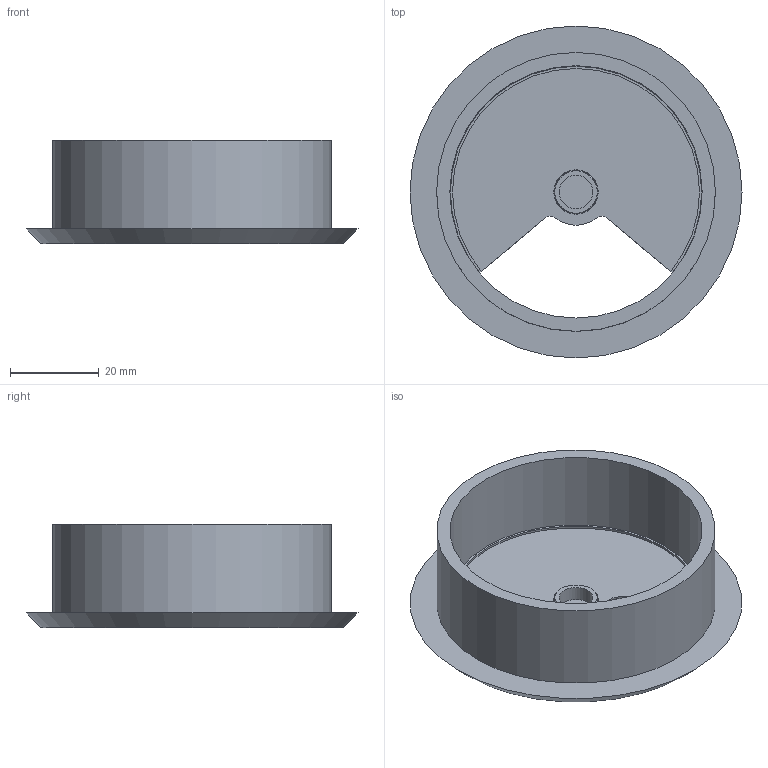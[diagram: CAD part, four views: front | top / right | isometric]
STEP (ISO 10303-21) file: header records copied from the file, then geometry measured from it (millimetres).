
FILE_DESCRIPTION(/* description */ (''),/* implementation_level */ '2;1');
FILE_NAME(/* name */ 'cable_grommet.step',/* time_stamp */ '2023-04-01T17:52:05+02:00',/* author */ (''),/* organization */ (''),/* preprocessor_version */ 'ST-DEVELOPER v19.2',/* originating_system */ 'Autodesk Translation Framework v11.17.0.187',/* authorisation */ '');
FILE_SCHEMA (('AUTOMOTIVE_DESIGN { 1 0 10303 214 3 1 1 }'));
Length unit declared in the file: millimetre
Products named in the file (1): cable_grommet
Bounding box: 75 x 75 x 23.31 mm (x, y, z)
Volume: 22128.3 mm3; surface area: 21106.4 mm2
Topology: 3 solids, 3 shells, 42 faces, 92 edges, 59 vertices
Faces by surface type: cylinder 16, plane 14, cone 9, bspline 2, torus 1
Full cylindrical faces by diameter (mm): 7.6 x1, 9.6 x1, 10 x1, 57 x1, 60.6 x2, 63 x1
Entity records: 1454 total; most frequent: CARTESIAN_POINT 460, DIRECTION 210, ORIENTED_EDGE 184, EDGE_CURVE 92, AXIS2_PLACEMENT_3D 85, VERTEX_POINT 59, EDGE_LOOP 49, CIRCLE 44
